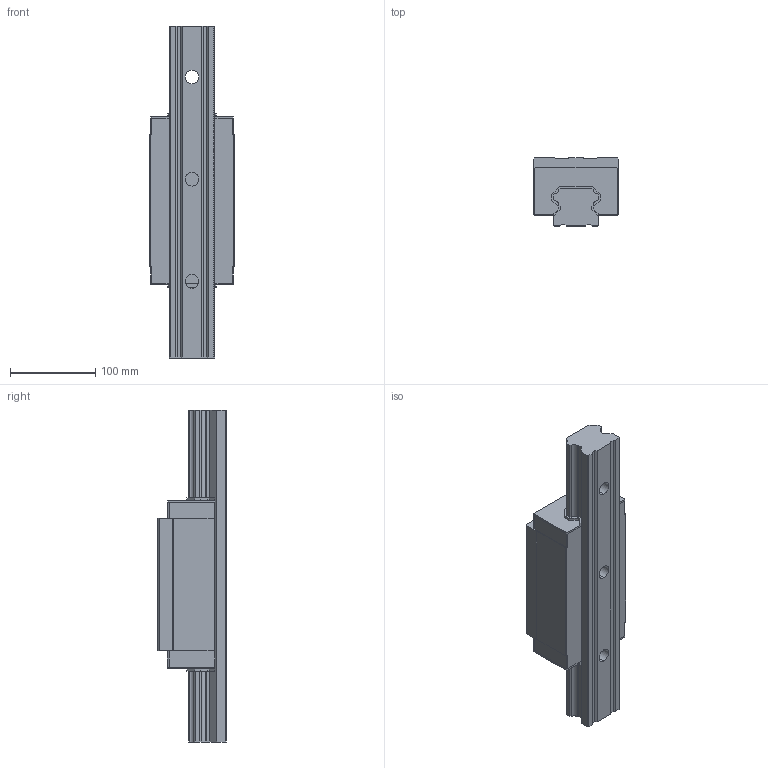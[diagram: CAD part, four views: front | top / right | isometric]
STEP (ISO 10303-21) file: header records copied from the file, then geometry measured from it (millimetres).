
FILE_DESCRIPTION (( 'STEP AP214' ), '1' );
FILE_NAME ('2.1029 Lineaarikelkka HGH55HA.STEP', '2024-04-24T06:18:32', ( '' ), ( '' ), 'SwSTEP 2.0', 'SolidWorks 2024', '' );
FILE_SCHEMA (( 'AUTOMOTIVE_DESIGN' ));
Length unit declared in the file: millimetre
Products named in the file (1): 2.1029 Lineaarikelkka HGH55HA
Bounding box: 100 x 80 x 390 mm (x, y, z)
Volume: 1737975.7 mm3; surface area: 199860.3 mm2
Topology: 4 solids, 4 shells, 255 faces, 720 edges, 476 vertices
Faces by surface type: plane 195, cylinder 44, cone 8, bspline 8
Entity records: 11989 total; most frequent: CARTESIAN_POINT 2508, ORIENTED_EDGE 1424, DIRECTION 1288, EDGE_CURVE 712, VECTOR 600, LINE 600, VERTEX_POINT 476, AXIS2_PLACEMENT_3D 344
